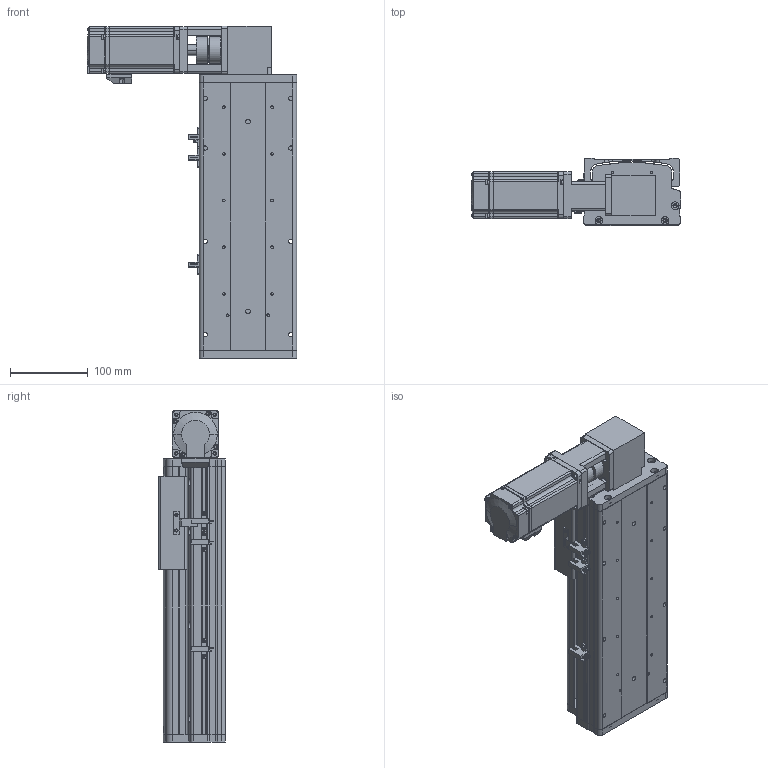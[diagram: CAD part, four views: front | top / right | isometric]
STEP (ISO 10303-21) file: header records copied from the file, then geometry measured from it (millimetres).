
FILE_DESCRIPTION (( 'STEP AP214' ), '1' );
FILE_NAME ('KSD125B-S150-MRT-CM.STEP', '2017-08-07T07:12:47', ( '微软用户' ), ( '微软中国' ), 'SwSTEP 2.0', 'SolidWorks 2014', '' );
FILE_SCHEMA (( 'AUTOMOTIVE_DESIGN' ));
Length unit declared in the file: millimetre
Products named in the file (16): 100遵鎮湛假蚾啣1 ; 覜茼え68遵圉猾敕; U倰嫖萇假蚾璃; U倰嫖萇EEㄜSX672; KSD125模组同步带-防撞垫1; 100宽安装板同步带带电机座400W,86; 100宽马达安装板同步带右; 前端板-125宽模组同步带; 125模组同步带-尾端板1; KSD125模组同步带-滑动座1; KSD125B-S150-MRT-CM; KSD125模组150行程同步带-防尘盖; 125模组150行程同步带-底板; MHMD042G1CA_2_03; KSD125模组同步带-防撞垫2; CS-34X32-10X14
Assembly tree (19 placements, depth 2):
  KSD125B-S150-MRT-CM
    KSD125模组同步带-滑动座1
    125模组同步带-尾端板1
    前端板-125宽模组同步带
    100宽马达安装板同步带右
    100宽安装板同步带带电机座400W,86
    KSD125模组同步带-防撞垫1
    U倰嫖萇EEㄜSX672  x3
    U倰嫖萇假蚾璃  x3
    覜茼え68遵圉猾敕
    100遵鎮湛假蚾啣1 
    CS-34X32-10X14
    KSD125模组同步带-防撞垫2
    MHMD042G1CA_2_03
    125模组150行程同步带-底板
    KSD125模组150行程同步带-防尘盖
Bounding box: 269 x 86 x 427 mm (x, y, z)
Volume: 1639189.7 mm3; surface area: 573726.5 mm2
Topology: 18 solids, 21 shells, 1598 faces, 4570 edges, 3012 vertices
Faces by surface type: cylinder 801, plane 694, cone 81, bspline 22
Entity records: 55542 total; most frequent: CARTESIAN_POINT 11324, DIRECTION 8109, ORIENTED_EDGE 7660, EDGE_CURVE 3908, AXIS2_PLACEMENT_3D 2985, VERTEX_POINT 2604, LINE 2139, VECTOR 2139
